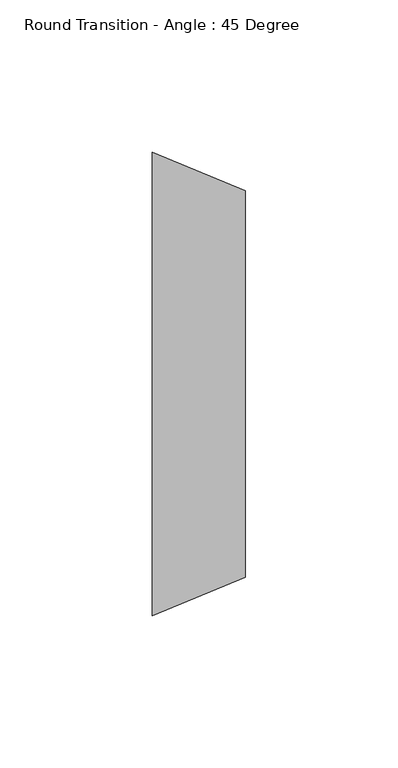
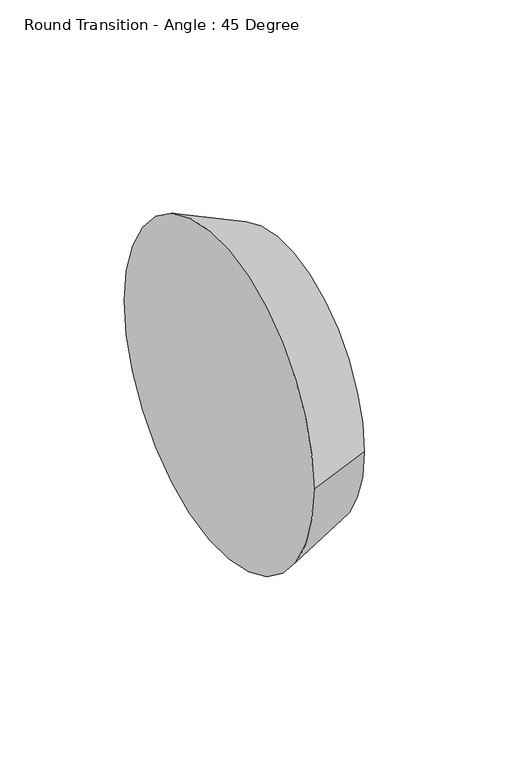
"""IFC4 building model written with IfcOpenShell, lengths in millimetres: duct fitting geometry, Round Transition - Angle : 45 Degree."""

from ifc_helpers import new_model, si_unit, frame, origin, place, context, project, spatial, polyline, circle_curve, source, transform, mapped, element, save
from ifc_brep_helpers import plane_surface, revolved_surface, advanced_brep


def round_transition_angle_45_degree_f573c4f8(model_context):
    return source(origin(), model_context, "Body", "AdvancedBrep", [
        advanced_brep(
        [(30.6605122, -63.5, 0.0), (30.6605122, 63.5, 0.0), (0.0, -76.2, 0.0), (0.0, 76.2, 0.0)],
        [
            (0, 1, circle_curve(frame((30.6605122, 0.0, 0.0), z_axis=(1.0, 0.0, 0.0), x_axis=(0.0, -1.0, 0.0)), 63.5)),
            (1, 0, circle_curve(frame((30.6605122, 0.0, 0.0), z_axis=(1.0, 0.0, 0.0), x_axis=(0.0, 1.0, 0.0)), 63.5)),
            (2, 3, circle_curve(frame((0.0, 0.0, 0.0), z_axis=(-1.0, 0.0, 0.0), x_axis=(0.0, 1.0, 0.0)), 76.2)),
            (3, 2, circle_curve(frame((0.0, 0.0, 0.0), z_axis=(-1.0, 0.0, 0.0), x_axis=(0.0, -1.0, 0.0)), 76.2)),
            (3, 1),
            (0, 2),
        ],
        [
            plane_surface(frame((30.6605122, 0.0, 0.0), z_axis=(1.0, 0.0, 0.0), x_axis=(0.0, 0.0, -1.0))),
            plane_surface(frame((0.0, 0.0, 0.0), z_axis=(-1.0, 0.0, 0.0), x_axis=(0.0, 0.0, -1.0))),
            revolved_surface(polyline([(30.6605122, -63.50000002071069, 0.0), (0.0, -76.2, 0.0)]), (183.9630735, 0.0, 0.0), (-1.0, 0.0, 0.0)),
            revolved_surface(polyline([(30.6605122, 63.50000002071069, 0.0), (0.0, 76.2, 0.0)]), (183.9630735, 0.0, 0.0), (-1.0, 0.0, 0.0)),
        ],
        [
            (0, [[1, 2]]),
            (1, [[3, 4]]),
            (2, [[-4, 5, -1, 6]]),
            (3, [[-3, -6, -2, -5]]),
        ],
    ),
    ])


if __name__ == "__main__":
    model = new_model("IFC4")
    model_context = context("Model", 3, world=origin())
    ifc_project = project(units=[si_unit("LENGTHUNIT", "METRE", prefix="MILLI")], contexts=[model_context])
    site = spatial("IfcSite", under=ifc_project)
    building = spatial("IfcBuilding", under=site)
    placement = place(None, origin())
    round_transition_angle_45_degree_shape = round_transition_angle_45_degree_f573c4f8(model_context)
    element("IfcDuctFitting", 1, ObjectType="Round Transition - Angle : 45 Degree", at=placement, inside=building, context=model_context, shape_type="MappedRepresentation", body=[
        mapped(round_transition_angle_45_degree_shape, transform((0.0, 0.0, 0.0), x_axis=(1.0, 0.0, 0.0), y_axis=(0.0, 1.0, 0.0), z_axis=(0.0, 0.0, 1.0))),
    ])
    save(model, "model.ifc")
